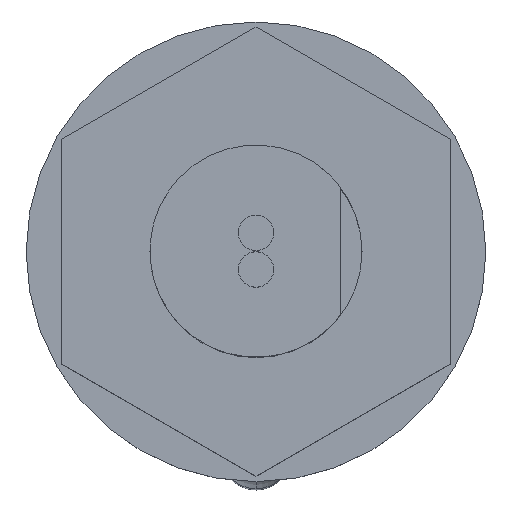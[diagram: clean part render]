
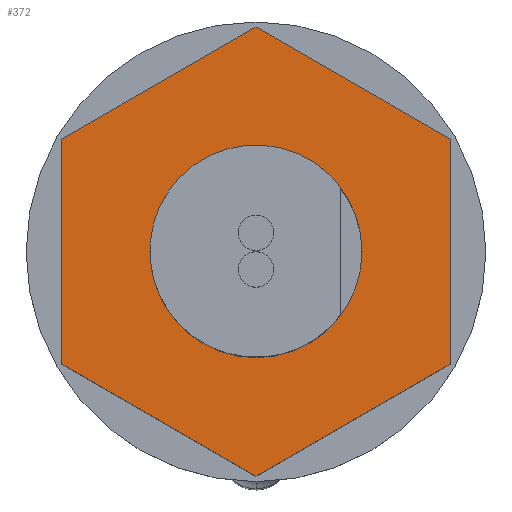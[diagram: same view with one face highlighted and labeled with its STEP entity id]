
A CAD part, top view. The second image highlights one B-rep face of the part: STEP entity #372.
In plain terms, the highlighted planar face has unit normal (0, 0, 1) as drawn and (-1, 0, 0) by its records, which use the part's own axes.
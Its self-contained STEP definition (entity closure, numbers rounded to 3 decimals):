
#357 = VERTEX_POINT ( 'NONE', #1209 ) ;
#359 = EDGE_CURVE ( 'NONE', #360, #357, #1208, .T. ) ;
#360 = VERTEX_POINT ( 'NONE', #1203 ) ;
#370 = ORIENTED_EDGE ( 'NONE', *, *, #428, .T. ) ;
#371 = EDGE_LOOP ( 'NONE', ( #370, #427, #418, #409, #411, #414 ) ) ;
#372 = ADVANCED_FACE ( 'NONE', ( #1258, #1257 ), #1256, .F. ) ;
#400 = ORIENTED_EDGE ( 'NONE', *, *, #401, .F. ) ;
#401 = EDGE_CURVE ( 'NONE', #357, #360, #1281, .T. ) ;
#406 = EDGE_CURVE ( 'NONE', #420, #407, #1268, .T. ) ;
#407 = VERTEX_POINT ( 'NONE', #1327 ) ;
#408 = VERTEX_POINT ( 'NONE', #1326 ) ;
#409 = ORIENTED_EDGE ( 'NONE', *, *, #410, .T. ) ;
#410 = EDGE_CURVE ( 'NONE', #407, #408, #1325, .T. ) ;
#411 = ORIENTED_EDGE ( 'NONE', *, *, #413, .T. ) ;
#412 = VERTEX_POINT ( 'NONE', #1321 ) ;
#413 = EDGE_CURVE ( 'NONE', #408, #412, #1320, .T. ) ;
#414 = ORIENTED_EDGE ( 'NONE', *, *, #415, .T. ) ;
#415 = EDGE_CURVE ( 'NONE', #412, #425, #1316, .T. ) ;
#416 = EDGE_LOOP ( 'NONE', ( #421, #400 ) ) ;
#418 = ORIENTED_EDGE ( 'NONE', *, *, #406, .T. ) ;
#419 = EDGE_CURVE ( 'NONE', #426, #420, #1312, .T. ) ;
#420 = VERTEX_POINT ( 'NONE', #1308 ) ;
#421 = ORIENTED_EDGE ( 'NONE', *, *, #359, .F. ) ;
#425 = VERTEX_POINT ( 'NONE', #1300 ) ;
#426 = VERTEX_POINT ( 'NONE', #1299 ) ;
#427 = ORIENTED_EDGE ( 'NONE', *, *, #419, .T. ) ;
#428 = EDGE_CURVE ( 'NONE', #425, #426, #1363, .T. ) ;
#1203 = CARTESIAN_POINT ( 'NONE',  ( 3.8, 1.5, 0. ) ) ;
#1204 = DIRECTION ( 'NONE',  ( 0., -1., 0. ) ) ;
#1205 = DIRECTION ( 'NONE',  ( -1., 0., 0. ) ) ;
#1206 = CARTESIAN_POINT ( 'NONE',  ( 3.8, 0., 0. ) ) ;
#1207 = AXIS2_PLACEMENT_3D ( 'NONE', #1206, #1205, #1204 ) ;
#1208 = CIRCLE ( 'NONE', #1207, 1.5 ) ;
#1209 = CARTESIAN_POINT ( 'NONE',  ( 3.8, -1.5, 0. ) ) ;
#1252 = DIRECTION ( 'NONE',  ( 0., 1., 0. ) ) ;
#1253 = DIRECTION ( 'NONE',  ( 1., 0., 0. ) ) ;
#1254 = CARTESIAN_POINT ( 'NONE',  ( 3.8, 0., 5.5 ) ) ;
#1255 = AXIS2_PLACEMENT_3D ( 'NONE', #1254, #1253, #1252 ) ;
#1256 = PLANE ( 'NONE',  #1255 ) ;
#1257 = FACE_BOUND ( 'NONE', #416, .T. ) ;
#1258 = FACE_OUTER_BOUND ( 'NONE', #371, .T. ) ;
#1267 = CARTESIAN_POINT ( 'NONE',  ( 3.8, 1.588, -2.75 ) ) ;
#1268 = LINE ( 'NONE', #1267, #1329 ) ;
#1277 = DIRECTION ( 'NONE',  ( 0., -1., 0. ) ) ;
#1278 = DIRECTION ( 'NONE',  ( -1., 0., 0. ) ) ;
#1279 = CARTESIAN_POINT ( 'NONE',  ( 3.8, 0., 0. ) ) ;
#1280 = AXIS2_PLACEMENT_3D ( 'NONE', #1279, #1278, #1277 ) ;
#1281 = CIRCLE ( 'NONE', #1280, 1.5 ) ;
#1299 = CARTESIAN_POINT ( 'NONE',  ( 3.8, 3.175, 0. ) ) ;
#1300 = CARTESIAN_POINT ( 'NONE',  ( 3.8, 1.588, 2.75 ) ) ;
#1308 = CARTESIAN_POINT ( 'NONE',  ( 3.8, 1.588, -2.75 ) ) ;
#1309 = DIRECTION ( 'NONE',  ( 0., -0.5, -0.866 ) ) ;
#1310 = VECTOR ( 'NONE', #1309, 1000. ) ;
#1311 = CARTESIAN_POINT ( 'NONE',  ( 3.8, 3.175, 0. ) ) ;
#1312 = LINE ( 'NONE', #1311, #1310 ) ;
#1313 = DIRECTION ( 'NONE',  ( 0., 1., 0. ) ) ;
#1314 = VECTOR ( 'NONE', #1313, 1000. ) ;
#1315 = CARTESIAN_POINT ( 'NONE',  ( 3.8, -1.588, 2.75 ) ) ;
#1316 = LINE ( 'NONE', #1315, #1314 ) ;
#1317 = DIRECTION ( 'NONE',  ( 0., 0.5, 0.866 ) ) ;
#1318 = VECTOR ( 'NONE', #1317, 1000. ) ;
#1319 = CARTESIAN_POINT ( 'NONE',  ( 3.8, -3.175, 0. ) ) ;
#1320 = LINE ( 'NONE', #1319, #1318 ) ;
#1321 = CARTESIAN_POINT ( 'NONE',  ( 3.8, -1.588, 2.75 ) ) ;
#1322 = DIRECTION ( 'NONE',  ( 0., -0.5, 0.866 ) ) ;
#1323 = VECTOR ( 'NONE', #1322, 1000. ) ;
#1324 = CARTESIAN_POINT ( 'NONE',  ( 3.8, -1.588, -2.75 ) ) ;
#1325 = LINE ( 'NONE', #1324, #1323 ) ;
#1326 = CARTESIAN_POINT ( 'NONE',  ( 3.8, -3.175, 0. ) ) ;
#1327 = CARTESIAN_POINT ( 'NONE',  ( 3.8, -1.588, -2.75 ) ) ;
#1328 = DIRECTION ( 'NONE',  ( 0., -1., 0. ) ) ;
#1329 = VECTOR ( 'NONE', #1328, 1000. ) ;
#1360 = DIRECTION ( 'NONE',  ( 0., 0.5, -0.866 ) ) ;
#1361 = VECTOR ( 'NONE', #1360, 1000. ) ;
#1362 = CARTESIAN_POINT ( 'NONE',  ( 3.8, 1.588, 2.75 ) ) ;
#1363 = LINE ( 'NONE', #1362, #1361 ) ;
